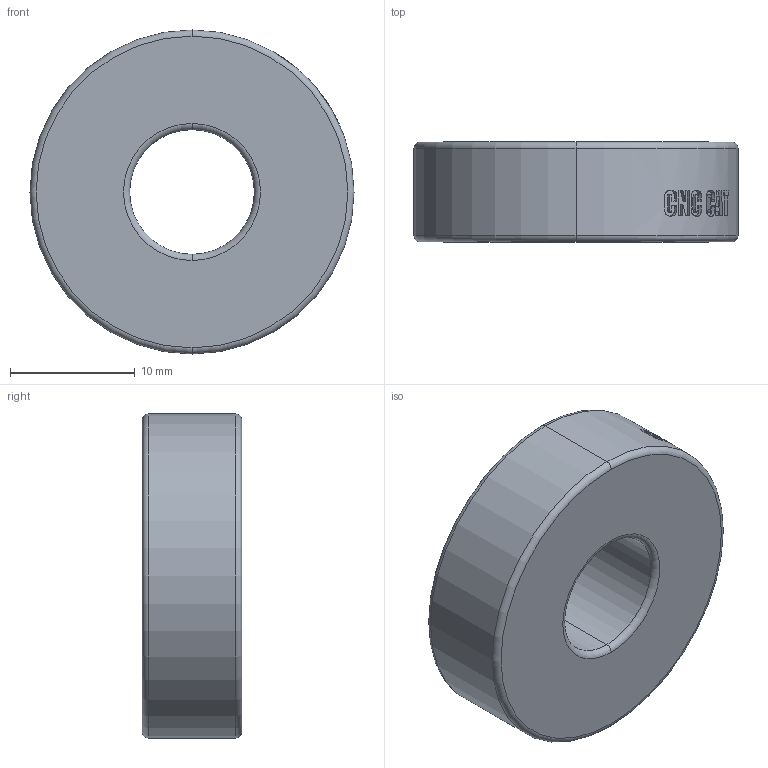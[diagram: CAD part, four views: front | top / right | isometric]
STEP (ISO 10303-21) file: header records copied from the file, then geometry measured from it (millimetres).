
FILE_DESCRIPTION (( 'STEP AP203' ), '1' );
FILE_NAME ('10X26X8mm.STEP', '2017-08-13T07:40:10', ( '' ), ( '' ), 'SwSTEP 2.0', 'SolidWorks 2014', '' );
FILE_SCHEMA (( 'CONFIG_CONTROL_DESIGN' ));
Length unit declared in the file: millimetre
Products named in the file (1): 10X26X8mm
Bounding box: 26 x 8 x 26 mm (x, y, z)
Volume: 3603.4 mm3; surface area: 1776.2 mm2
Topology: 1 solids, 1 shells, 98 faces, 259 edges, 170 vertices
Faces by surface type: plane 47, bspline 32, cylinder 11, torus 8
Entity records: 6638 total; most frequent: CARTESIAN_POINT 4390, ORIENTED_EDGE 518, DIRECTION 340, EDGE_CURVE 259, VERTEX_POINT 170, AXIS2_PLACEMENT_3D 129, B_SPLINE_CURVE_WITH_KNOTS 115, EDGE_LOOP 107
